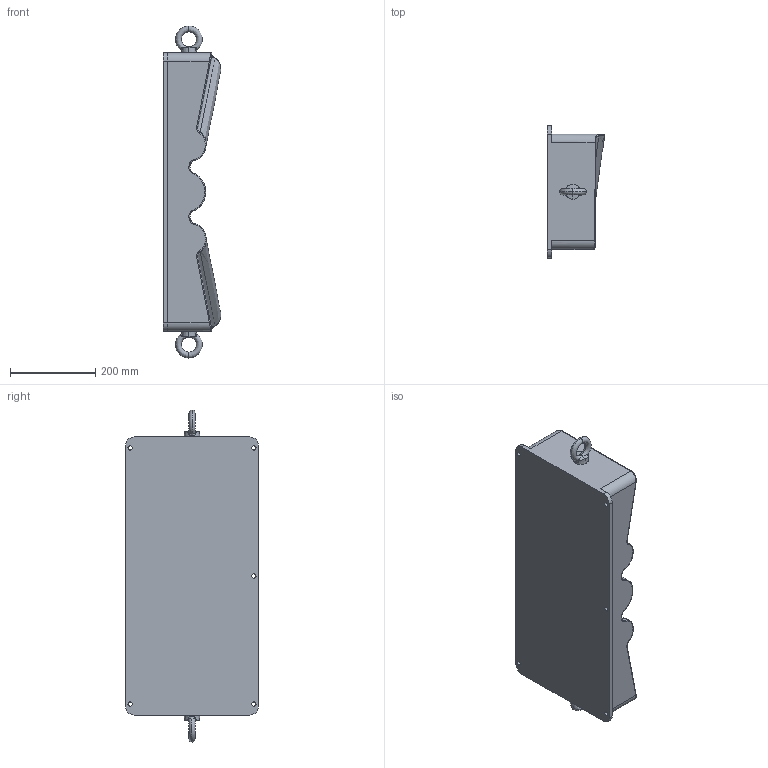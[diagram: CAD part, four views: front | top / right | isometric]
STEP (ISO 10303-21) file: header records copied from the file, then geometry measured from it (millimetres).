
FILE_DESCRIPTION(('CATIA V5 STEP','CAx-IF Rec.Pracs.--- Model Styling and Organization---1.5--- 2016-08-15','CAx-IF Rec.Pracs.---Supplemental Geometry---1.0---2011-11-01','CAx-IF Rec.Pracs.---Representation and Presentation of Product Manufacturing Information (PMI)---4.0---2014-10-13','CAx-IF Rec.Pracs.--- Composite Materials ---3.4---2017-06-13','CAx-IF Rec.Pracs.---Tessellated 3D Geometry---1.0---2015-12-17'),'2;1');
FILE_NAME('Y:\data\Конструкторский отдел\01_Проекты\05_РКК\Корпус переходника среднего из КМ\40_Модели_и_КД\14С49.Б1100-1062\ФЗО\УНМТ.01-077.202.062.000 матрица алюминиевая.stp','2025-10-15T06:25:29+00:00',('none'),('none'),'CATIA Version 5-6 Release 2020 SP5','CATIA V5 STEP AP242 v2','none');
FILE_SCHEMA(('AP242_MANAGED_MODEL_BASED_3D_ENGINEERING_MIM_LF {1 0 10303 442 1 1 4}'));
Length unit declared in the file: millimetre
Products named in the file (5): UNMT.01-077.202.062.000; UNMT.01-077.202.062.001; Рым-болт Втулка; УНМТ.01-077.202.000.001; Рым-болт М16 ГОСТ 4751-73
Assembly tree (5 placements, depth 3):
  UNMT.01-077.202.062.000
    UNMT.01-077.202.062.001
    Рым-болт Втулка  x2
      УНМТ.01-077.202.000.001
      Рым-болт М16 ГОСТ 4751-73
Bounding box: 134.54 x 310 x 778 mm (x, y, z)
Volume: 16544688.5 mm3; surface area: 648806 mm2
Topology: 5 solids, 5 shells, 188 faces, 484 edges, 298 vertices
Faces by surface type: bspline 61, cylinder 46, cone 42, plane 35, torus 4
Entity records: 23139 total; most frequent: CARTESIAN_POINT 18823, ORIENTED_EDGE 708, DIRECTION 377, COORDINATES_LIST 366, TESSELLATED_CURVE_SET 365, EDGE_CURVE 354, VERTEX_POINT 219, AXIS2_PLACEMENT_3D 183
